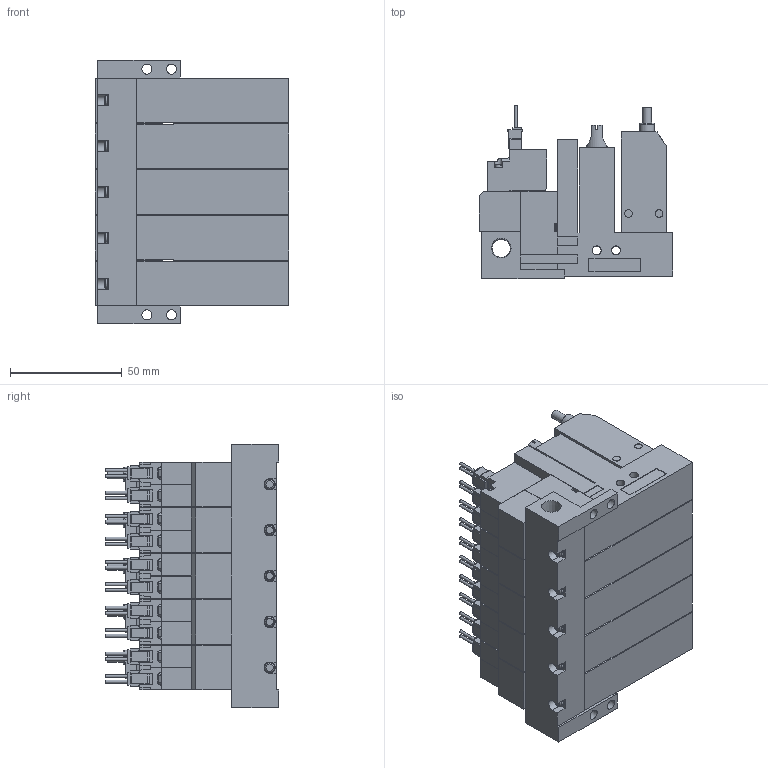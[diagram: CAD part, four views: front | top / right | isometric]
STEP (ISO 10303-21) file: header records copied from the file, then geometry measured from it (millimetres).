
FILE_DESCRIPTION(('STEP AP203'),'1');
FILE_NAME('ABS_ABPL5BLR505.stp','2025-02-19T00:57:14',(' '),(' '),'Spatial InterOp 3D',' ',' ');
FILE_SCHEMA(('CONFIG_CONTROL_DESIGN'));
Length unit declared in the file: millimetre
Products named in the file (5): BMC22M※※※※ABS_ABPL5BLR505; Solenoid valve B; Pressure sensor ABSL; Unit L; Base MR50R
Assembly tree (16 placements, depth 2):
  BMC22M※※※※ABS_ABPL5BLR505
    Solenoid valve B  x5
    Pressure sensor ABSL  x5
    Unit L  x5
    Base MR50R
Bounding box: 86.6 x 77.45 x 118 mm (x, y, z)
Volume: 446363.9 mm3; surface area: 123745 mm2
Topology: 16 solids, 16 shells, 1776 faces, 4764 edges, 3145 vertices
Faces by surface type: plane 1504, cylinder 215, cone 37, torus 20
Full cylindrical faces by diameter (mm): 1.4 x20, 2.5 x5, 3 x20, 3.5 x30, 3.6 x5, 4 x15, 4.134 x5, 4.5 x4, 5.2 x5, 6 x5, 6.5 x5, 6.6 x5, 8.279 x1
Entity records: 13508 total; most frequent: CARTESIAN_POINT 2564, DIRECTION 2153, ORIENTED_EDGE 2104, EDGE_CURVE 1052, LINE 847, VECTOR 847, VERTEX_POINT 739, AXIS2_PLACEMENT_3D 653
